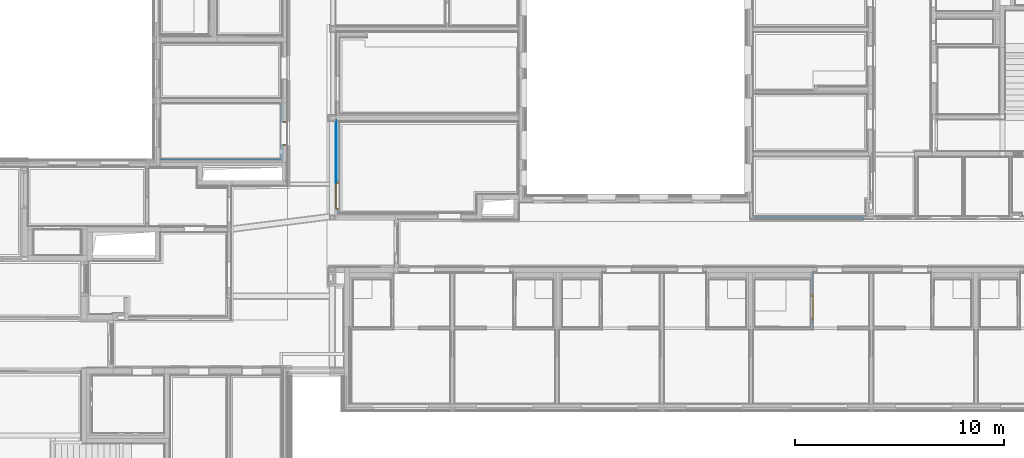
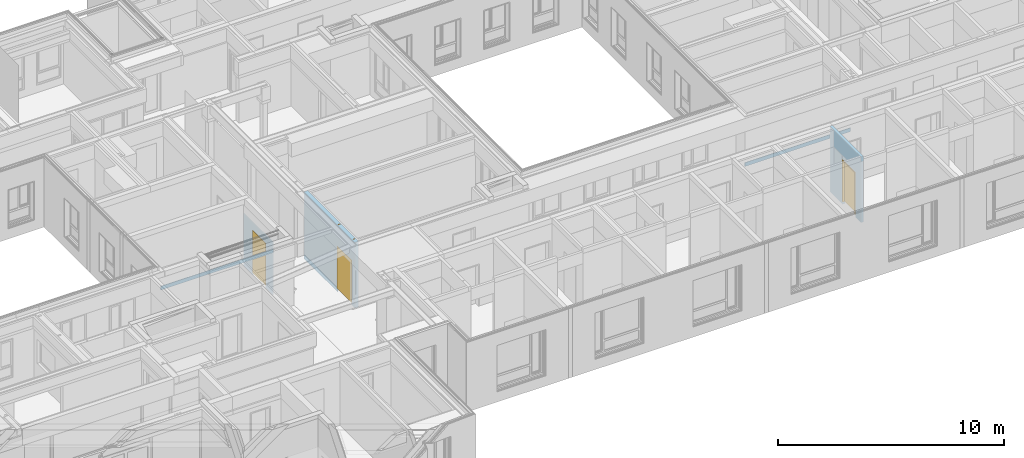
# One storey, part 118 of 222: 3 doors, 3 walls, 3 openings, plus 3 elements that do not belong to this part.
"""IFC4 building model written with IfcOpenShell, lengths in metres."""

from ifc_helpers import new_model, entity, si_unit, converted_unit, derived_unit, frame, frame_2d, origin, origin_with_axes, place, context, subcontext, project, spatial, polyline, rectangle, outline, extrude, faceted_brep, source, transform, mapped, material, type_object, element, fill, save


model = new_model("IFC4")

# Units and contexts
model_context = context("Model", 3, precision=1e-05, world=origin())
body_context = subcontext(model_context, "Body", "Model", "MODEL_VIEW")
ifc_project = project(units=[si_unit("LENGTHUNIT", "METRE"), si_unit("AREAUNIT", "SQUARE_METRE"), si_unit("VOLUMEUNIT", "CUBIC_METRE"), si_unit("MASSUNIT", "GRAM", prefix="KILO"), converted_unit("PLANEANGLEUNIT", "DEGREE", entity("IfcPlaneAngleMeasure", 0.0174532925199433), si_unit("PLANEANGLEUNIT", "RADIAN"), dimensions=[0, 0, 0, 0, 0, 0, 0]), derived_unit("THERMALTRANSMITTANCEUNIT", [(si_unit("POWERUNIT", "WATT"), 1), (si_unit("THERMODYNAMICTEMPERATUREUNIT", "KELVIN"), -1), (si_unit("LENGTHUNIT", "METRE"), -2)]), derived_unit("VOLUMETRICFLOWRATEUNIT", [(si_unit("LENGTHUNIT", "METRE"), 3), (converted_unit("TIMEUNIT", "hour", entity("IfcTimeMeasure", 3600.0), si_unit("TIMEUNIT", "SECOND"), dimensions=[0, 0, 1, 0, 0, 0, 0]), -1), (si_unit("LENGTHUNIT", "METRE"), -1)])], contexts=[model_context])

# Site, building, storey
site_placement = place(None, origin())
site = spatial("IfcSite", under=ifc_project, at=site_placement, Name="Psychiatrie Neubau Wunstorf", CompositionType="ELEMENT")
building_placement = place(site_placement, origin())
building = spatial("IfcBuilding", under=site, at=building_placement, Name="Neubau H2 Stationsgebäude", CompositionType="ELEMENT")
storey_placement = place(building_placement, frame((0.0, 0.0, 3.6)))
storey = spatial("IfcBuildingStorey", under=building, at=storey_placement, Name="H2 Ebene +1", CompositionType="ELEMENT", Elevation=3.6)

# Wall, opening, door
ifc_material_1 = material(Name="WI-LB")
wall_1_placement = place(storey_placement, frame((93.1000000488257, 5.1005, 0.0), z_axis=(0.0, 0.0, 1.0), x_axis=(0.0, -1.0, 0.0)))
wall_1 = element("IfcWall", 1, at=wall_1_placement, inside=storey, material=ifc_material_1, context=body_context, shape_type="SweptSolid", body=[
    extrude(rectangle(XDim=2.73999999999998, YDim=0.125, at=frame_2d((1.36999999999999, 0.0625), x_axis=(1.0, 0.0))), origin_with_axes(), (0.0, 0.0, 1.0), 3.55),
])
opening_1_placement = place(wall_1_placement, frame((1.10499999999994, 0.0, 0.0), z_axis=(0.0, 1.0, 0.0), x_axis=(0.0, 0.0, 1.0)))
opening_1 = element("IfcOpeningElement", 2, at=opening_1_placement, cuts=wall_1, Name="Türöffnung", ObjectType="Opening", context=body_context, shape_type="SweptSolid", body=[
    extrude(outline(polyline([(2.41, 1.135), (2.41, 0.0), (0.0, 0.0), (0.0, 1.135), (2.41, 1.135)])), origin_with_axes(), (0.0, 0.0, 1.0), 0.125),
])
ifc_material_2 = material(Name="TI-1F-UZ-D-N")
door_type_1 = type_object("IfcDoorType", Name="SMT", OperationType="SINGLE_SWING_RIGHT", ParameterTakesPrecedence=False, PredefinedType="DOOR")
shared_shape_1 = source(origin_with_axes(), body_context, "Body", "Brep", [
    faceted_brep([(-0.0499999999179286, 0.0125000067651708, 0.0), (0.0, 0.0125000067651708, 0.0), (0.0, 0.112499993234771, 0.0), (-0.0499999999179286, 0.112499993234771, 0.0), (-0.0499999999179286, 0.112499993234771, 3.55), (0.0, 0.112499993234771, 3.55), (0.0, 0.0125000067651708, 3.55), (-0.0499999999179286, 0.0125000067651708, 3.55)], [[[0, 1, 2, 3]], [[4, 5, 6, 7]], [[3, 4, 7, 0]], [[2, 5, 4, 3]], [[1, 6, 5, 2]], [[0, 7, 6, 1]]], orient=[[False], [False], [False], [False], [False], [False]]),
    faceted_brep([(1.135, 0.0125000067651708, 0.0), (1.18499999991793, 0.0125000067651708, 0.0), (1.18499999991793, 0.112499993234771, 0.0), (1.135, 0.112499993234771, 0.0), (1.135, 0.112499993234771, 3.55), (1.18499999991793, 0.112499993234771, 3.55), (1.18499999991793, 0.0125000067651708, 3.55), (1.135, 0.0125000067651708, 3.55)], [[[0, 1, 2, 3]], [[4, 5, 6, 7]], [[3, 4, 7, 0]], [[2, 5, 4, 3]], [[1, 6, 5, 2]], [[0, 7, 6, 1]]], orient=[[False], [False], [False], [False], [False], [False]]),
    faceted_brep([(0.0, 0.0125000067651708, 2.41), (1.135, 0.0125000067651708, 2.41), (1.135, 0.112499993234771, 2.41), (0.0, 0.112499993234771, 2.41), (0.0, 0.112499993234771, 2.46), (1.135, 0.112499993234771, 2.46), (1.135, 0.0125000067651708, 2.46), (0.0, 0.0125000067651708, 2.46)], [[[0, 1, 2, 3]], [[4, 5, 6, 7]], [[3, 4, 7, 0]], [[2, 5, 4, 3]], [[1, 6, 5, 2]], [[0, 7, 6, 1]]], orient=[[False], [False], [False], [False], [False], [False]]),
])
shared_shape_2 = source(origin_with_axes(), body_context, "Body", "Brep", [
    faceted_brep([(0.0, -0.0150000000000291, 2.41), (0.0400000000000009, -0.0150000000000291, 2.41), (0.0400000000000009, -0.0150000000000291, 0.15), (0.0, -0.0150000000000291, 0.15), (0.0, 0.139999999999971, 0.15), (0.0400000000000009, 0.139999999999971, 0.15), (0.0400000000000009, 0.139999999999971, 2.41), (0.0, 0.139999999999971, 2.41)], [[[0, 1, 2, 3]], [[4, 5, 6, 7]], [[3, 4, 7, 0]], [[2, 5, 4, 3]], [[1, 6, 5, 2]], [[0, 7, 6, 1]]], orient=[[False], [False], [False], [False], [False], [False]]),
    faceted_brep([(0.0, -0.0150000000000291, 2.425), (0.0, -0.0150000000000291, 0.15), (-0.0149999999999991, -0.0150000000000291, 0.15), (-0.0149999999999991, -0.0150000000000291, 2.425), (0.0, 0.0, 0.15), (0.0, 0.0, 2.425), (-0.0149999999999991, 0.0, 2.425), (-0.0149999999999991, 0.0, 0.15)], [[[0, 1, 2, 3]], [[4, 5, 6, 7]], [[1, 0, 5, 4]], [[2, 1, 4, 7]], [[3, 2, 7, 6]], [[0, 3, 6, 5]]], orient=[[False], [False], [False], [False], [False], [False]]),
    faceted_brep([(0.0, 0.124999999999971, 2.425), (0.0, 0.124999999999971, 0.15), (-0.0149999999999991, 0.124999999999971, 0.15), (-0.0149999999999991, 0.124999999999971, 2.425), (0.0, 0.139999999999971, 0.15), (0.0, 0.139999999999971, 2.425), (-0.0149999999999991, 0.139999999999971, 2.425), (-0.0149999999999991, 0.139999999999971, 0.15)], [[[0, 1, 2, 3]], [[4, 5, 6, 7]], [[1, 0, 5, 4]], [[2, 1, 4, 7]], [[3, 2, 7, 6]], [[0, 3, 6, 5]]], orient=[[False], [False], [False], [False], [False], [False]]),
    faceted_brep([(1.095, -0.0150000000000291, 2.41), (1.135, -0.0150000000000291, 2.41), (1.135, -0.0150000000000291, 0.15), (1.095, -0.0150000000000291, 0.15), (1.095, 0.139999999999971, 0.15), (1.135, 0.139999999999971, 0.15), (1.135, 0.139999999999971, 2.41), (1.095, 0.139999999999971, 2.41)], [[[0, 1, 2, 3]], [[4, 5, 6, 7]], [[3, 4, 7, 0]], [[2, 5, 4, 3]], [[1, 6, 5, 2]], [[0, 7, 6, 1]]], orient=[[False], [False], [False], [False], [False], [False]]),
    faceted_brep([(1.135, -0.0150000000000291, 2.425), (1.15, -0.0150000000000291, 2.425), (1.15, -0.0150000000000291, 0.15), (1.135, -0.0150000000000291, 0.15), (1.135, 0.0, 0.15), (1.15, 0.0, 0.15), (1.15, 0.0, 2.425), (1.135, 0.0, 2.425)], [[[0, 1, 2, 3]], [[4, 5, 6, 7]], [[3, 4, 7, 0]], [[2, 5, 4, 3]], [[1, 6, 5, 2]], [[0, 7, 6, 1]]], orient=[[False], [False], [False], [False], [False], [False]]),
    faceted_brep([(1.135, 0.124999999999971, 2.425), (1.15, 0.124999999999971, 2.425), (1.15, 0.124999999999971, 0.15), (1.135, 0.124999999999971, 0.15), (1.135, 0.139999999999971, 0.15), (1.15, 0.139999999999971, 0.15), (1.15, 0.139999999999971, 2.425), (1.135, 0.139999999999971, 2.425)], [[[0, 1, 2, 3]], [[4, 5, 6, 7]], [[3, 4, 7, 0]], [[2, 5, 4, 3]], [[1, 6, 5, 2]], [[0, 7, 6, 1]]], orient=[[False], [False], [False], [False], [False], [False]]),
    faceted_brep([(0.0400000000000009, -0.0150000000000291, 2.41), (1.095, -0.0150000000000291, 2.41), (1.095, -0.0150000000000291, 2.37), (0.0400000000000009, -0.0150000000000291, 2.37), (0.0400000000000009, 0.139999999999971, 2.37), (1.095, 0.139999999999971, 2.37), (1.095, 0.139999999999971, 2.41), (0.0400000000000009, 0.139999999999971, 2.41)], [[[0, 1, 2, 3]], [[4, 5, 6, 7]], [[3, 4, 7, 0]], [[2, 5, 4, 3]], [[1, 6, 5, 2]], [[0, 7, 6, 1]]], orient=[[False], [False], [False], [False], [False], [False]]),
    faceted_brep([(0.0, -0.0150000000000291, 2.425), (1.135, -0.0150000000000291, 2.425), (1.135, -0.0150000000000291, 2.41), (0.0, -0.0150000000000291, 2.41), (0.0, 0.0, 2.41), (1.135, 0.0, 2.41), (1.135, 0.0, 2.425), (0.0, 0.0, 2.425)], [[[0, 1, 2, 3]], [[4, 5, 6, 7]], [[3, 4, 7, 0]], [[2, 5, 4, 3]], [[1, 6, 5, 2]], [[0, 7, 6, 1]]], orient=[[False], [False], [False], [False], [False], [False]]),
    faceted_brep([(0.0, 0.124999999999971, 2.425), (1.135, 0.124999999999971, 2.425), (1.135, 0.124999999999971, 2.41), (0.0, 0.124999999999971, 2.41), (0.0, 0.139999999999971, 2.41), (1.135, 0.139999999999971, 2.41), (1.135, 0.139999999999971, 2.425), (0.0, 0.139999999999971, 2.425)], [[[0, 1, 2, 3]], [[4, 5, 6, 7]], [[3, 4, 7, 0]], [[2, 5, 4, 3]], [[1, 6, 5, 2]], [[0, 7, 6, 1]]], orient=[[False], [False], [False], [False], [False], [False]]),
    faceted_brep([(0.0250000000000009, 0.0909999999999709, 2.385), (1.11, 0.0909999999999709, 2.385), (1.11, 0.0909999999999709, 0.15), (0.0250000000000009, 0.0909999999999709, 0.15), (0.0250000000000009, 0.140999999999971, 0.15), (1.11, 0.140999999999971, 0.15), (1.11, 0.140999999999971, 2.385), (0.0250000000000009, 0.140999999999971, 2.385)], [[[0, 1, 2, 3]], [[4, 5, 6, 7]], [[3, 4, 7, 0]], [[2, 5, 4, 3]], [[1, 6, 5, 2]], [[0, 7, 6, 1]]], orient=[[False], [False], [False], [False], [False], [False]]),
])
door_1_placement = place(opening_1_placement, frame((0.0, 0.0, 0.0), z_axis=(1.0, 0.0, 0.0), x_axis=(0.0, 1.0, 0.0)))
door_1 = element("IfcDoor", 3, at=door_1_placement, inside=storey, type_object=door_type_1, material=ifc_material_2, Name="SMT", OverallHeight=2.41, OverallWidth=1.135, context=body_context, shape_type="MappedRepresentation", body=[
    mapped(shared_shape_1, transform((0.0, 0.0, 0.0), x_axis=(1.0, 0.0, 0.0), y_axis=(0.0, 1.0, 0.0), z_axis=(0.0, 0.0, 1.0), scale=1.0)),
    mapped(shared_shape_2, transform((0.0, 0.0, 0.0), x_axis=(1.0, 0.0, 0.0), y_axis=(0.0, 1.0, 0.0), z_axis=(0.0, 0.0, 1.0), scale=1.0)),
])
fill(opening_1, door_1)

ifc_material_3 = material(Name="WI-LB")
wall_2_placement = place(storey_placement, frame((67.7955, 13.1374966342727, 0.0), z_axis=(0.0, 0.0, 1.0), x_axis=(0.0, -1.0, 0.0)))
wall_2 = element("IfcWall", 4, at=wall_2_placement, inside=storey, material=ifc_material_3, context=body_context, shape_type="SweptSolid", body=[
    extrude(rectangle(XDim=2.61650318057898, YDim=0.0400000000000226, at=frame_2d((1.30825159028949, 0.0200000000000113), x_axis=(1.0, 0.0))), origin_with_axes(), (0.0, 0.0, 1.0), 2.85),
])
opening_2_placement = place(wall_2_placement, frame((1.97892492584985, 0.04, 0.0), z_axis=(0.0, -1.0, 0.0), x_axis=(0.0, 0.0, 1.0)))
opening_2 = element("IfcOpeningElement", 5, at=opening_2_placement, cuts=wall_2, Name="Türöffnung", ObjectType="Opening", context=body_context, shape_type="SweptSolid", body=[
    extrude(outline(polyline([(2.41, 1.135), (2.41, 0.0), (0.0, 0.0), (0.0, 1.135), (2.41, 1.135)])), origin_with_axes(), (0.0, 0.0, 1.0), 0.04),
])
ifc_material_4 = material(Name="TI-1F-UZ-ZK")
door_type_2 = type_object("IfcDoorType", Name="SMT", OperationType="SINGLE_SWING_RIGHT", ParameterTakesPrecedence=False, PredefinedType="DOOR")
shared_shape_3 = source(origin_with_axes(), body_context, "Body", "Brep", [
    faceted_brep([(1.135, -0.0149999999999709, 2.41), (1.135, -0.0149999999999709, 0.15), (1.095, -0.0149999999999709, 0.15), (1.095, -0.0149999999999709, 2.41), (1.135, 0.337000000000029, 0.15), (1.135, 0.337000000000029, 2.41), (1.095, 0.337000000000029, 2.41), (1.095, 0.337000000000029, 0.15)], [[[0, 1, 2, 3]], [[4, 5, 6, 7]], [[1, 0, 5, 4]], [[2, 1, 4, 7]], [[3, 2, 7, 6]], [[0, 3, 6, 5]]], orient=[[False], [False], [False], [False], [False], [False]]),
    faceted_brep([(1.135, -0.0149999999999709, 2.425), (1.15, -0.0149999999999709, 2.425), (1.15, -0.0149999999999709, 0.15), (1.135, -0.0149999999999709, 0.15), (1.135, 0.0, 0.15), (1.15, 0.0, 0.15), (1.15, 0.0, 2.425), (1.135, 0.0, 2.425)], [[[0, 1, 2, 3]], [[4, 5, 6, 7]], [[3, 4, 7, 0]], [[2, 5, 4, 3]], [[1, 6, 5, 2]], [[0, 7, 6, 1]]], orient=[[False], [False], [False], [False], [False], [False]]),
    faceted_brep([(1.135, 0.322000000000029, 2.425), (1.15, 0.322000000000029, 2.425), (1.15, 0.322000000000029, 0.15), (1.135, 0.322000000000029, 0.15), (1.135, 0.337000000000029, 0.15), (1.15, 0.337000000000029, 0.15), (1.15, 0.337000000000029, 2.425), (1.135, 0.337000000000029, 2.425)], [[[0, 1, 2, 3]], [[4, 5, 6, 7]], [[3, 4, 7, 0]], [[2, 5, 4, 3]], [[1, 6, 5, 2]], [[0, 7, 6, 1]]], orient=[[False], [False], [False], [False], [False], [False]]),
    faceted_brep([(0.0399999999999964, -0.0149999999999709, 2.41), (0.0399999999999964, -0.0149999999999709, 0.15), (0.0, -0.0149999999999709, 0.15), (0.0, -0.0149999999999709, 2.41), (0.0399999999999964, 0.337000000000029, 0.15), (0.0399999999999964, 0.337000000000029, 2.41), (0.0, 0.337000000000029, 2.41), (0.0, 0.337000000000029, 0.15)], [[[0, 1, 2, 3]], [[4, 5, 6, 7]], [[1, 0, 5, 4]], [[2, 1, 4, 7]], [[3, 2, 7, 6]], [[0, 3, 6, 5]]], orient=[[False], [False], [False], [False], [False], [False]]),
    faceted_brep([(0.0, -0.0149999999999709, 2.425), (0.0, -0.0149999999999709, 0.15), (-0.0150000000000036, -0.0149999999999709, 0.15), (-0.0150000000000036, -0.0149999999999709, 2.425), (0.0, 0.0, 0.15), (0.0, 0.0, 2.425), (-0.0150000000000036, 0.0, 2.425), (-0.0150000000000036, 0.0, 0.15)], [[[0, 1, 2, 3]], [[4, 5, 6, 7]], [[1, 0, 5, 4]], [[2, 1, 4, 7]], [[3, 2, 7, 6]], [[0, 3, 6, 5]]], orient=[[False], [False], [False], [False], [False], [False]]),
    faceted_brep([(0.0, 0.322000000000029, 2.425), (0.0, 0.322000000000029, 0.15), (-0.0150000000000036, 0.322000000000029, 0.15), (-0.0150000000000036, 0.322000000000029, 2.425), (0.0, 0.337000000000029, 0.15), (0.0, 0.337000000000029, 2.425), (-0.0150000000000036, 0.337000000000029, 2.425), (-0.0150000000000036, 0.337000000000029, 0.15)], [[[0, 1, 2, 3]], [[4, 5, 6, 7]], [[1, 0, 5, 4]], [[2, 1, 4, 7]], [[3, 2, 7, 6]], [[0, 3, 6, 5]]], orient=[[False], [False], [False], [False], [False], [False]]),
    faceted_brep([(1.095, -0.0149999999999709, 2.41), (1.095, -0.0149999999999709, 2.37), (0.0399999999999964, -0.0149999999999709, 2.37), (0.0399999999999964, -0.0149999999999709, 2.41), (1.095, 0.337000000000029, 2.37), (1.095, 0.337000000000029, 2.41), (0.0399999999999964, 0.337000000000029, 2.41), (0.0399999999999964, 0.337000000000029, 2.37)], [[[0, 1, 2, 3]], [[4, 5, 6, 7]], [[1, 0, 5, 4]], [[2, 1, 4, 7]], [[3, 2, 7, 6]], [[0, 3, 6, 5]]], orient=[[False], [False], [False], [False], [False], [False]]),
    faceted_brep([(1.135, -0.0149999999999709, 2.425), (1.135, -0.0149999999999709, 2.41), (0.0, -0.0149999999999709, 2.41), (0.0, -0.0149999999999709, 2.425), (1.135, 0.0, 2.41), (1.135, 0.0, 2.425), (0.0, 0.0, 2.425), (0.0, 0.0, 2.41)], [[[0, 1, 2, 3]], [[4, 5, 6, 7]], [[1, 0, 5, 4]], [[2, 1, 4, 7]], [[3, 2, 7, 6]], [[0, 3, 6, 5]]], orient=[[False], [False], [False], [False], [False], [False]]),
    faceted_brep([(1.135, 0.322000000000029, 2.425), (1.135, 0.322000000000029, 2.41), (0.0, 0.322000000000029, 2.41), (0.0, 0.322000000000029, 2.425), (1.135, 0.337000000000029, 2.41), (1.135, 0.337000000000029, 2.425), (0.0, 0.337000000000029, 2.425), (0.0, 0.337000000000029, 2.41)], [[[0, 1, 2, 3]], [[4, 5, 6, 7]], [[1, 0, 5, 4]], [[2, 1, 4, 7]], [[3, 2, 7, 6]], [[0, 3, 6, 5]]], orient=[[False], [False], [False], [False], [False], [False]]),
    faceted_brep([(1.11, 0.288000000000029, 2.385), (1.11, 0.288000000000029, 0.15), (0.0249999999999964, 0.288000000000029, 0.15), (0.0249999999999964, 0.288000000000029, 2.385), (1.11, 0.338000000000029, 0.15), (1.11, 0.338000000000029, 2.385), (0.0249999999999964, 0.338000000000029, 2.385), (0.0249999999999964, 0.338000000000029, 0.15)], [[[0, 1, 2, 3]], [[4, 5, 6, 7]], [[1, 0, 5, 4]], [[2, 1, 4, 7]], [[3, 2, 7, 6]], [[0, 3, 6, 5]]], orient=[[False], [False], [False], [False], [False], [False]]),
])
door_2_placement = place(opening_2_placement, frame((0.0, 0.0, -0.282), z_axis=(1.0, 0.0, 0.0), x_axis=(0.0, 1.0, 0.0)))
door_2 = element("IfcDoor", 6, at=door_2_placement, inside=storey, type_object=door_type_2, material=ifc_material_4, Name="SMT", OverallHeight=2.41, OverallWidth=1.135, context=body_context, shape_type="MappedRepresentation", body=[
    mapped(shared_shape_3, transform((0.0, 0.0, 0.0), x_axis=(1.0, 0.0, 0.0), y_axis=(0.0, 1.0, 0.0), z_axis=(0.0, 0.0, 1.0), scale=1.0)),
])
fill(opening_2, door_2)

# Wall
wall_3_placement = place(storey_placement, frame((62.06100019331, 10.4959982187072, 2.3)))
element("IfcWall", 7, at=wall_3_placement, inside=storey, Name="WV 1.1", context=body_context, shape_type="Brep", body=[
    faceted_brep([(5.74, 0.0, 0.0), (5.74, 0.0250000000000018, 0.0), (0.0, 0.025, 0.0), (0.0, 0.0, 0.0), (5.74, 0.0250000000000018, 0.2), (5.74, 0.0, 0.2), (0.0, 0.0, 0.2), (0.0, 0.025, 0.2)], [[[0, 1, 2, 3]], [[4, 5, 6, 7]], [[1, 0, 5, 4]], [[2, 1, 4, 7]], [[3, 2, 7, 6]], [[0, 3, 6, 5]]], orient=[[False], [False], [False], [False], [False], [False]]),
])

# Wall, opening, door
ifc_material_5 = material(Name="WI-LB")
wall_4_placement = place(storey_placement, frame((70.429999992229, 12.354, 0.0), z_axis=(0.0, 0.0, 1.0), x_axis=(0.0, -1.0, 0.0)))
wall_4 = element("IfcWall", 8, at=wall_4_placement, inside=storey, material=ifc_material_5, context=body_context, shape_type="SweptSolid", body=[
    extrude(rectangle(XDim=4.51450000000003, YDim=0.19, at=frame_2d((2.25725000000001, 0.095), x_axis=(1.0, 0.0))), origin_with_axes(), (0.0, 0.0, 1.0), 3.55),
])
opening_3_placement = place(wall_4_placement, frame((4.23899586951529, 0.19, 0.0), z_axis=(0.0, -1.0, 0.0), x_axis=(0.0, 0.0, 1.0)))
opening_3 = element("IfcOpeningElement", 9, at=opening_3_placement, cuts=wall_4, Name="Türöffnung", ObjectType="Opening", context=body_context, shape_type="SweptSolid", body=[
    extrude(outline(polyline([(2.41, 1.26), (2.41, 0.0), (0.0, 0.0), (0.0, 1.26), (2.41, 1.26)])), origin_with_axes(), (0.0, 0.0, 1.0), 0.19),
])
ifc_material_6 = material(Name="TI-1F-UZ-D")
door_type_3 = type_object("IfcDoorType", Name="SMT", OperationType="SINGLE_SWING_RIGHT", ParameterTakesPrecedence=False, PredefinedType="DOOR")
shared_shape_4 = source(origin_with_axes(), body_context, "Body", "Brep", [
    faceted_brep([(-0.0500000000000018, 0.0450000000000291, 0.0), (0.0, 0.0450000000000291, 0.0), (0.0, 0.145000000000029, 0.0), (-0.0500000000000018, 0.145000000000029, 0.0), (-0.0500000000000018, 0.145000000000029, 3.55), (0.0, 0.145000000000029, 3.55), (0.0, 0.0450000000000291, 3.55), (-0.0500000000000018, 0.0450000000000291, 3.55)], [[[0, 1, 2, 3]], [[4, 5, 6, 7]], [[3, 4, 7, 0]], [[2, 5, 4, 3]], [[1, 6, 5, 2]], [[0, 7, 6, 1]]], orient=[[False], [False], [False], [False], [False], [False]]),
    faceted_brep([(1.26, 0.0450000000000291, 0.0), (1.31, 0.0450000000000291, 0.0), (1.31, 0.145000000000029, 0.0), (1.26, 0.145000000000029, 0.0), (1.26, 0.145000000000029, 3.55), (1.31, 0.145000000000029, 3.55), (1.31, 0.0450000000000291, 3.55), (1.26, 0.0450000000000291, 3.55)], [[[0, 1, 2, 3]], [[4, 5, 6, 7]], [[3, 4, 7, 0]], [[2, 5, 4, 3]], [[1, 6, 5, 2]], [[0, 7, 6, 1]]], orient=[[False], [False], [False], [False], [False], [False]]),
    faceted_brep([(0.0, 0.0450000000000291, 2.41), (1.26, 0.0450000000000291, 2.41), (1.26, 0.145000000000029, 2.41), (0.0, 0.145000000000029, 2.41), (0.0, 0.145000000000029, 2.46), (1.26, 0.145000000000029, 2.46), (1.26, 0.0450000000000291, 2.46), (0.0, 0.0450000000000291, 2.46)], [[[0, 1, 2, 3]], [[4, 5, 6, 7]], [[3, 4, 7, 0]], [[2, 5, 4, 3]], [[1, 6, 5, 2]], [[0, 7, 6, 1]]], orient=[[False], [False], [False], [False], [False], [False]]),
])
shared_shape_5 = source(origin_with_axes(), body_context, "Body", "Brep", [
    faceted_brep([(1.26, -0.0149999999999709, 2.41), (1.26, -0.0149999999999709, 0.15), (1.22, -0.0149999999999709, 0.15), (1.22, -0.0149999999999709, 2.41), (1.26, 0.205000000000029, 0.15), (1.26, 0.205000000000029, 2.41), (1.22, 0.205000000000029, 2.41), (1.22, 0.205000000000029, 0.15)], [[[0, 1, 2, 3]], [[4, 5, 6, 7]], [[1, 0, 5, 4]], [[2, 1, 4, 7]], [[3, 2, 7, 6]], [[0, 3, 6, 5]]], orient=[[False], [False], [False], [False], [False], [False]]),
    faceted_brep([(1.26, -0.0149999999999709, 2.425), (1.275, -0.0149999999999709, 2.425), (1.275, -0.0149999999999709, 0.15), (1.26, -0.0149999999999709, 0.15), (1.26, 0.0, 0.15), (1.275, 0.0, 0.15), (1.275, 0.0, 2.425), (1.26, 0.0, 2.425)], [[[0, 1, 2, 3]], [[4, 5, 6, 7]], [[3, 4, 7, 0]], [[2, 5, 4, 3]], [[1, 6, 5, 2]], [[0, 7, 6, 1]]], orient=[[False], [False], [False], [False], [False], [False]]),
    faceted_brep([(1.26, 0.190000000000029, 2.425), (1.275, 0.190000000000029, 2.425), (1.275, 0.190000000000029, 0.15), (1.26, 0.190000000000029, 0.15), (1.26, 0.205000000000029, 0.15), (1.275, 0.205000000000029, 0.15), (1.275, 0.205000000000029, 2.425), (1.26, 0.205000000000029, 2.425)], [[[0, 1, 2, 3]], [[4, 5, 6, 7]], [[3, 4, 7, 0]], [[2, 5, 4, 3]], [[1, 6, 5, 2]], [[0, 7, 6, 1]]], orient=[[False], [False], [False], [False], [False], [False]]),
    faceted_brep([(0.0399999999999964, -0.0149999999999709, 2.41), (0.0399999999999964, -0.0149999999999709, 0.15), (0.0, -0.0149999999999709, 0.15), (0.0, -0.0149999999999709, 2.41), (0.0399999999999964, 0.205000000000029, 0.15), (0.0399999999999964, 0.205000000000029, 2.41), (0.0, 0.205000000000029, 2.41), (0.0, 0.205000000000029, 0.15)], [[[0, 1, 2, 3]], [[4, 5, 6, 7]], [[1, 0, 5, 4]], [[2, 1, 4, 7]], [[3, 2, 7, 6]], [[0, 3, 6, 5]]], orient=[[False], [False], [False], [False], [False], [False]]),
    faceted_brep([(0.0, -0.0149999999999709, 2.425), (0.0, -0.0149999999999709, 0.15), (-0.0150000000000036, -0.0149999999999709, 0.15), (-0.0150000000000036, -0.0149999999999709, 2.425), (0.0, 0.0, 0.15), (0.0, 0.0, 2.425), (-0.0150000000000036, 0.0, 2.425), (-0.0150000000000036, 0.0, 0.15)], [[[0, 1, 2, 3]], [[4, 5, 6, 7]], [[1, 0, 5, 4]], [[2, 1, 4, 7]], [[3, 2, 7, 6]], [[0, 3, 6, 5]]], orient=[[False], [False], [False], [False], [False], [False]]),
    faceted_brep([(0.0, 0.190000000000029, 2.425), (0.0, 0.190000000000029, 0.15), (-0.0150000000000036, 0.190000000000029, 0.15), (-0.0150000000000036, 0.190000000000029, 2.425), (0.0, 0.205000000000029, 0.15), (0.0, 0.205000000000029, 2.425), (-0.0150000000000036, 0.205000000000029, 2.425), (-0.0150000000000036, 0.205000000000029, 0.15)], [[[0, 1, 2, 3]], [[4, 5, 6, 7]], [[1, 0, 5, 4]], [[2, 1, 4, 7]], [[3, 2, 7, 6]], [[0, 3, 6, 5]]], orient=[[False], [False], [False], [False], [False], [False]]),
    faceted_brep([(1.22, -0.0149999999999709, 2.41), (1.22, -0.0149999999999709, 2.37), (0.0399999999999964, -0.0149999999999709, 2.37), (0.0399999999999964, -0.0149999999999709, 2.41), (1.22, 0.205000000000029, 2.37), (1.22, 0.205000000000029, 2.41), (0.0399999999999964, 0.205000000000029, 2.41), (0.0399999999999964, 0.205000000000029, 2.37)], [[[0, 1, 2, 3]], [[4, 5, 6, 7]], [[1, 0, 5, 4]], [[2, 1, 4, 7]], [[3, 2, 7, 6]], [[0, 3, 6, 5]]], orient=[[False], [False], [False], [False], [False], [False]]),
    faceted_brep([(1.26, -0.0149999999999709, 2.425), (1.26, -0.0149999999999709, 2.41), (0.0, -0.0149999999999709, 2.41), (0.0, -0.0149999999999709, 2.425), (1.26, 0.0, 2.41), (1.26, 0.0, 2.425), (0.0, 0.0, 2.425), (0.0, 0.0, 2.41)], [[[0, 1, 2, 3]], [[4, 5, 6, 7]], [[1, 0, 5, 4]], [[2, 1, 4, 7]], [[3, 2, 7, 6]], [[0, 3, 6, 5]]], orient=[[False], [False], [False], [False], [False], [False]]),
    faceted_brep([(1.26, 0.190000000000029, 2.425), (1.26, 0.190000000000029, 2.41), (0.0, 0.190000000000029, 2.41), (0.0, 0.190000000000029, 2.425), (1.26, 0.205000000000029, 2.41), (1.26, 0.205000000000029, 2.425), (0.0, 0.205000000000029, 2.425), (0.0, 0.205000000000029, 2.41)], [[[0, 1, 2, 3]], [[4, 5, 6, 7]], [[1, 0, 5, 4]], [[2, 1, 4, 7]], [[3, 2, 7, 6]], [[0, 3, 6, 5]]], orient=[[False], [False], [False], [False], [False], [False]]),
    faceted_brep([(1.235, 0.156000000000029, 2.385), (1.235, 0.156000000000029, 0.15), (0.0249999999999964, 0.156000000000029, 0.15), (0.0249999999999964, 0.156000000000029, 2.385), (1.235, 0.206000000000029, 0.15), (1.235, 0.206000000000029, 2.385), (0.0249999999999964, 0.206000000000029, 2.385), (0.0249999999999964, 0.206000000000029, 0.15)], [[[0, 1, 2, 3]], [[4, 5, 6, 7]], [[1, 0, 5, 4]], [[2, 1, 4, 7]], [[3, 2, 7, 6]], [[0, 3, 6, 5]]], orient=[[False], [False], [False], [False], [False], [False]]),
])
door_3_placement = place(opening_3_placement, frame((0.0, 0.0, 0.0), z_axis=(1.0, 0.0, 0.0), x_axis=(0.0, 1.0, 0.0)))
door_3 = element("IfcDoor", 10, at=door_3_placement, inside=storey, type_object=door_type_3, material=ifc_material_6, Name="SMT", OverallHeight=2.41, OverallWidth=1.26, context=body_context, shape_type="MappedRepresentation", body=[
    mapped(shared_shape_4, transform((0.0, 0.0, 0.0), x_axis=(1.0, 0.0, 0.0), y_axis=(0.0, 1.0, 0.0), z_axis=(0.0, 0.0, 1.0), scale=1.0)),
    mapped(shared_shape_5, transform((0.0, 0.0, 0.0), x_axis=(1.0, 0.0, 0.0), y_axis=(0.0, 1.0, 0.0), z_axis=(0.0, 0.0, 1.0), scale=1.0)),
])
fill(opening_3, door_3)

# Walls
wall_5_placement = place(storey_placement, frame((90.211, 7.62499989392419, 0.85)))
element("IfcWall", 11, at=wall_5_placement, inside=storey, Name="WV 1.1", context=body_context, shape_type="Brep", body=[
    faceted_brep([(0.0, 0.025, 0.0), (0.0, 0.0, 0.0), (5.4, 0.0, 0.0), (5.4, 0.025, 0.0), (0.0, 0.0, 0.2), (0.0, 0.025, 0.2), (5.4, 0.025, 0.2), (5.4, 0.0, 0.2)], [[[0, 1, 2, 3]], [[4, 5, 6, 7]], [[1, 0, 5, 4]], [[2, 1, 4, 7]], [[3, 2, 7, 6]], [[0, 3, 6, 5]]], orient=[[False], [False], [False], [False], [False], [False]]),
])
wall_6_placement = place(storey_placement, frame((70.43, 9.37400000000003, -0.05)))
element("IfcWall", 12, at=wall_6_placement, inside=storey, Name="WV 1.1", context=body_context, shape_type="Brep", body=[
    faceted_brep([(0.0, 0.0, 0.0), (0.025, 0.0, 0.0), (0.025, 2.98, 0.0), (0.0, 2.98, 0.0), (0.025, 0.0, 0.25), (0.0, 0.0, 0.25), (0.0, 2.98, 0.25), (0.025, 2.98, 0.25)], [[[0, 1, 2, 3]], [[4, 5, 6, 7]], [[1, 0, 5, 4]], [[2, 1, 4, 7]], [[3, 2, 7, 6]], [[0, 3, 6, 5]]], orient=[[False], [False], [False], [False], [False], [False]]),
])

save(model, "model.ifc")
